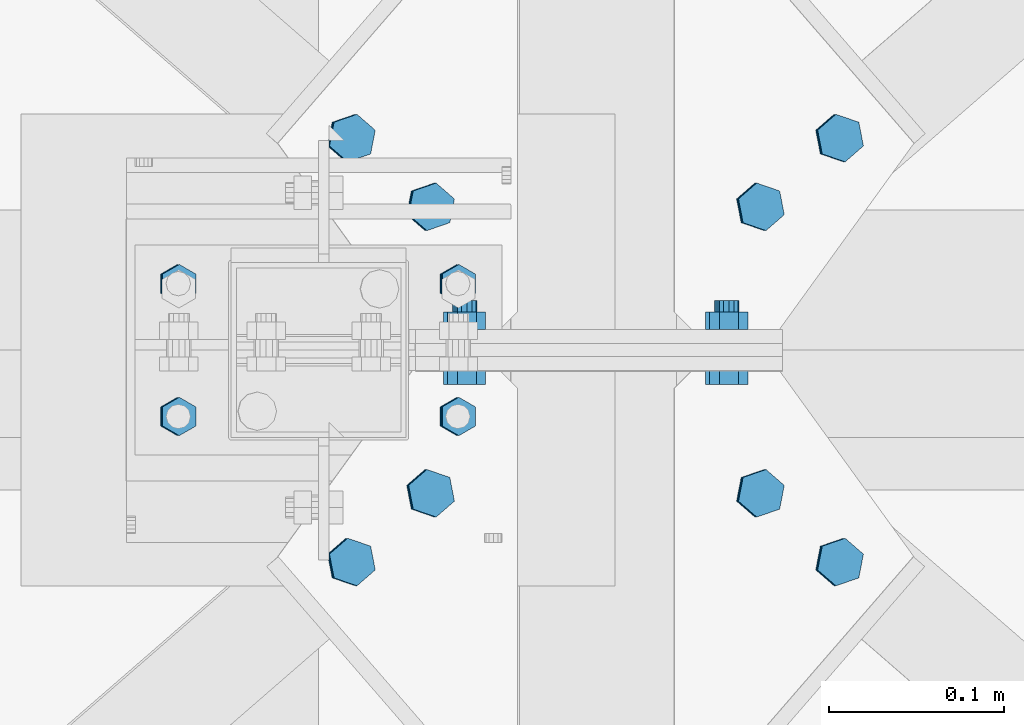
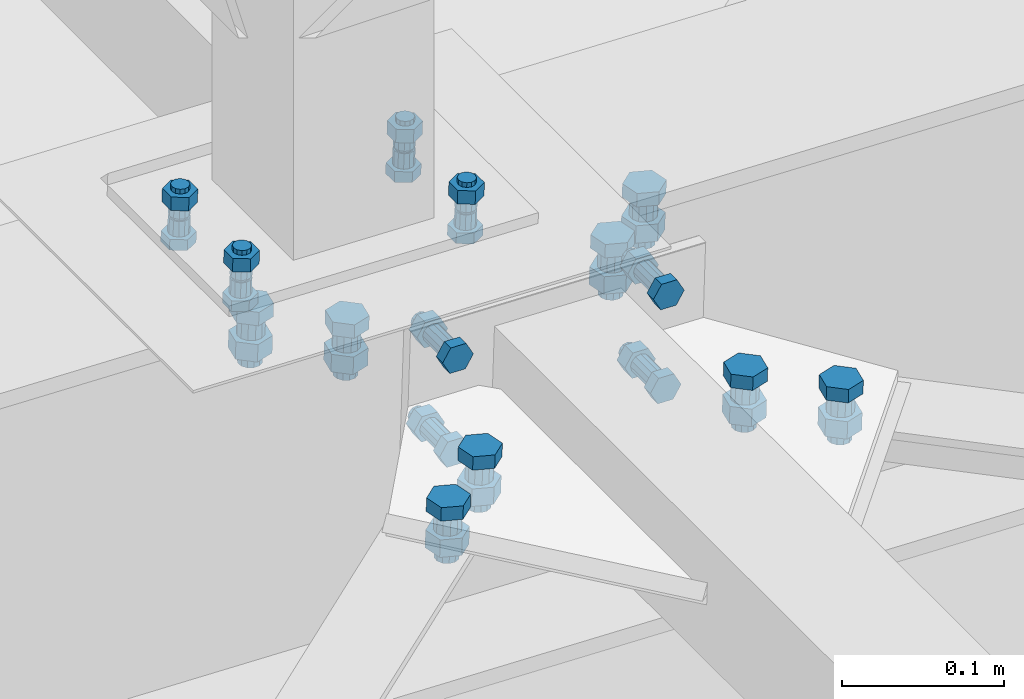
# One storey, part 236 of 3134: 6 mechanical fasteners, 3 elements without a shape of their own.
"""IFC2X3 building model written with IfcOpenShell, lengths in millimetres."""

from ifc_helpers import new_model, si_unit, frame, origin_with_axes, place, context, subcontext, project, spatial, faceted_brep, source, transform, mapped, material, type_object, element, aggregate, save


model = new_model("IFC2X3")

# Units and contexts
model_context = context("Model", 3, precision=1e-05, world=origin_with_axes())
body_context = subcontext(model_context, "Body", "Model", "MODEL_VIEW")
ifc_project = project(units=[si_unit("LENGTHUNIT", "METRE", prefix="MILLI"), si_unit("AREAUNIT", "SQUARE_METRE"), si_unit("VOLUMEUNIT", "CUBIC_METRE"), si_unit("MASSUNIT", "GRAM", prefix="KILO"), si_unit("TIMEUNIT", "SECOND"), si_unit("PLANEANGLEUNIT", "RADIAN"), si_unit("SOLIDANGLEUNIT", "STERADIAN"), si_unit("THERMODYNAMICTEMPERATUREUNIT", "DEGREE_CELSIUS"), si_unit("LUMINOUSINTENSITYUNIT", "LUMEN")], contexts=[model_context])

# Site, building, storey
site_placement = place(None, origin_with_axes())
site = spatial("IfcSite", under=ifc_project, at=site_placement, CompositionType="ELEMENT")
building_placement = place(site_placement, origin_with_axes())
building = spatial("IfcBuilding", under=site, at=building_placement, Name="Undefined", CompositionType="ELEMENT")
storey_placement = place(building_placement, origin_with_axes())
storey = spatial("IfcBuildingStorey", under=building, at=storey_placement, Name="Undefined", CompositionType="ELEMENT", Elevation=0.0)

# Assembly, mechanical fasteners
assembly_1_placement = place(storey_placement, origin_with_axes())
assembly_1 = element("IfcElementAssembly", 1, at=assembly_1_placement, inside=storey, AssemblyPlace="NOTDEFINED", PredefinedType="RIGID_FRAME")
ifc_material = material(Name="8.8")
mechanical_fastener_type = type_object("IfcMechanicalFastenerType", Name="Bolt assembly")
shared_shape_1 = source(origin_with_axes(), body_context, "Body", "Brep", [
    faceted_brep([(13.856406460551, -14.0, 0.0), (6.92820323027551, -14.0, 12.0), (-6.92820323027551, -14.0, 12.0), (-13.856406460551, -14.0, 1.69692038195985e-15), (-6.92820323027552, -14.0, -12.0), (6.9282032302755, -14.0, -12.0), (6.9282032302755, -4.00000145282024, -12.0), (-6.92820323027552, -4.00000145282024, -12.0), (-13.856406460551, -4.00000145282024, 1.69692038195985e-15), (-6.92820323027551, -4.00000145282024, 12.0), (6.92820323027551, -4.00000145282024, 12.0), (13.856406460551, -4.00000145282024, 0.0), (8.0, -4.00000145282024, 0.0), (6.92820323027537, -4.00000145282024, 4.00000000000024), (3.99999999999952, -4.00000145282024, 6.92820323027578), (-8.29068785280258e-13, -4.00000145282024, 8.0), (-4.00000000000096, -4.00000145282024, 6.92820323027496), (-6.9282032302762, -4.00000145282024, 3.99999999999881), (-8.0, -4.00000145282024, -1.65813757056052e-12), (-6.92820323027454, -4.00000145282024, -4.00000000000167), (-3.99999999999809, -4.00000145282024, -6.92820323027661), (2.47832457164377e-12, -4.00000145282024, -8.0), (4.00000000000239, -4.00000145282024, -6.92820323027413), (6.92820323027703, -4.00000145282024, -3.99999999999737), (6.92820323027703, 31.0, -3.99999999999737), (4.00000000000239, 31.0, -6.92820323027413), (2.47832457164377e-12, 31.0, -8.0), (-3.99999999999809, 31.0, -6.92820323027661), (-6.92820323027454, 31.0, -4.00000000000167), (-8.0, 31.0, -1.65813757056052e-12), (-6.9282032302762, 31.0, 3.99999999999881), (-4.00000000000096, 31.0, 6.92820323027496), (-8.29068785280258e-13, 31.0, 8.0), (3.99999999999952, 31.0, 6.92820323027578), (6.92820323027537, 31.0, 4.00000000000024), (8.0, 31.0, 0.0), (13.856406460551, 9.99962794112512, 0.0), (6.92820323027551, 9.99962794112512, 12.0), (-6.92820323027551, 9.99962794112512, 12.0), (-13.856406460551, 9.99962794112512, 1.69692038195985e-15), (-6.92820323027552, 9.99962794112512, -12.0), (6.9282032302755, 9.99962794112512, -12.0), (6.9282032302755, 22.9996279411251, -12.0), (-6.92820323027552, 22.9996279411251, -12.0), (-13.856406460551, 22.9996279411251, 1.69692038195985e-15), (-6.92820323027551, 22.9996279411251, 12.0), (6.92820323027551, 22.9996279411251, 12.0), (13.856406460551, 22.9996279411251, 0.0)], [[[0, 1, 2, 3, 4, 5]], [[6, 7, 8, 9, 10, 11]], [[0, 11, 10, 1]], [[1, 10, 9, 2]], [[2, 9, 8, 3]], [[3, 8, 7, 4]], [[4, 7, 6, 5]], [[5, 6, 11, 0]], [[12, 13, 14, 15, 16, 17, 18, 19, 20, 21, 22, 23]], [[24, 25, 26, 27, 28, 29, 30, 31, 32, 33, 34, 35]], [[12, 35, 34, 13]], [[13, 34, 33, 14]], [[14, 33, 32, 15]], [[15, 32, 31, 16]], [[16, 31, 30, 17]], [[17, 30, 29, 18]], [[18, 29, 28, 19]], [[19, 28, 27, 20]], [[20, 27, 26, 21]], [[21, 26, 25, 22]], [[22, 25, 24, 23]], [[23, 24, 35, 12]], [[36, 37, 38, 39, 40, 41]], [[42, 43, 44, 45, 46, 47]], [[36, 47, 46, 37]], [[37, 46, 45, 38]], [[38, 45, 44, 39]], [[39, 44, 43, 40]], [[40, 43, 42, 41]], [[41, 42, 47, 36]]]),
    faceted_brep([(9.0, 3.89962794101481, 0.0), (7.79422863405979, 3.89962794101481, 4.50000000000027), (4.49999999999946, 3.89962794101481, 7.79422863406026), (-9.3270238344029e-13, 3.89962794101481, 9.0), (-4.50000000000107, 3.89962794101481, 7.79422863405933), (-7.79422863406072, 3.89962794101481, 4.49999999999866), (-9.0, 3.89962794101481, -1.86540476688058e-12), (-7.79422863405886, 3.89962794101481, -4.50000000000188), (-4.49999999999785, 3.89962794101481, -7.79422863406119), (2.78811514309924e-12, 3.89962794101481, -9.0), (4.50000000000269, 3.89962794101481, -7.7942286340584), (7.79422863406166, 3.89962794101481, -4.49999999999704), (7.79422863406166, 9.99962794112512, -4.49999999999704), (4.50000000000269, 9.99962794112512, -7.7942286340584), (2.78811514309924e-12, 9.99962794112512, -9.0), (-4.49999999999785, 9.99962794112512, -7.79422863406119), (-7.79422863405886, 9.99962794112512, -4.50000000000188), (-9.0, 9.99962794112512, -1.86540476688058e-12), (-7.79422863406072, 9.99962794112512, 4.49999999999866), (-4.50000000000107, 9.99962794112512, 7.79422863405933), (-9.3270238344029e-13, 9.99962794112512, 9.0), (4.49999999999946, 9.99962794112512, 7.79422863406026), (7.79422863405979, 9.99962794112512, 4.50000000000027), (9.0, 9.99962794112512, 0.0), (9.0, -3.9, 0.0), (7.79422863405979, -3.9, 4.50000000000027), (4.49999999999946, -3.9, 7.79422863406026), (-9.3270238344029e-13, -3.9, 9.0), (-4.50000000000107, -3.9, 7.79422863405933), (-7.79422863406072, -3.9, 4.49999999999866), (-9.0, -3.9, -1.86540476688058e-12), (-7.79422863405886, -3.9, -4.50000000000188), (-4.49999999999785, -3.9, -7.79422863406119), (2.78811514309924e-12, -3.9, -9.0), (4.50000000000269, -3.9, -7.7942286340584), (7.79422863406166, -3.9, -4.49999999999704), (7.79422863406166, 4.09999854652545, -4.49999999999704), (4.50000000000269, 4.09999854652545, -7.7942286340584), (2.78811514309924e-12, 4.09999854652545, -9.0), (-4.49999999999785, 4.09999854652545, -7.79422863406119), (-7.79422863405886, 4.09999854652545, -4.50000000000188), (-9.0, 4.09999854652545, -1.86540476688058e-12), (-7.79422863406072, 4.09999854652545, 4.49999999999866), (-4.50000000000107, 4.09999854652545, 7.79422863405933), (-9.3270238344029e-13, 4.09999854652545, 9.0), (4.49999999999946, 4.09999854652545, 7.79422863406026), (7.79422863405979, 4.09999854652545, 4.50000000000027), (9.0, 4.09999854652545, 0.0)], [[[0, 1, 2, 3, 4, 5, 6, 7, 8, 9, 10, 11]], [[12, 13, 14, 15, 16, 17, 18, 19, 20, 21, 22, 23]], [[0, 23, 22, 1]], [[1, 22, 21, 2]], [[2, 21, 20, 3]], [[3, 20, 19, 4]], [[4, 19, 18, 5]], [[5, 18, 17, 6]], [[6, 17, 16, 7]], [[7, 16, 15, 8]], [[8, 15, 14, 9]], [[9, 14, 13, 10]], [[10, 13, 12, 11]], [[11, 12, 23, 0]], [[24, 25, 26, 27, 28, 29, 30, 31, 32, 33, 34, 35]], [[36, 37, 38, 39, 40, 41, 42, 43, 44, 45, 46, 47]], [[24, 47, 46, 25]], [[25, 46, 45, 26]], [[26, 45, 44, 27]], [[27, 44, 43, 28]], [[28, 43, 42, 29]], [[29, 42, 41, 30]], [[30, 41, 40, 31]], [[31, 40, 39, 32]], [[32, 39, 38, 33]], [[33, 38, 37, 34]], [[34, 37, 36, 35]], [[35, 36, 47, 24]]]),
])
mechanical_fastener_1_placement = place(assembly_1_placement, frame((26083.1409918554, 55373.0600296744, 10230.4557677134), z_axis=(0.655203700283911, -0.755179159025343, -0.0203113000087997), x_axis=(-0.754816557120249, -0.65551844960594, 0.0233993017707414)))
mechanical_fastener_1 = element("IfcMechanicalFastener", 2, at=mechanical_fastener_1_placement, type_object=mechanical_fastener_type, material=ifc_material, Name="Bolt assembly", NominalDiameter=16.0, NominalLength=35.0, context=body_context, shape_type="MappedRepresentation", body=[
    mapped(shared_shape_1, transform((0.0, 0.0, 0.0))),
    mapped(shared_shape_1, transform((59.9999999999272, 0.0, 5.40239852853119e-10))),
])
shared_shape_2 = source(origin_with_axes(), body_context, "Body", "Brep", [
    faceted_brep([(13.856406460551, -14.0, 0.0), (6.92820323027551, -14.0, 12.0), (-6.92820323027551, -14.0, 12.0), (-13.856406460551, -14.0, 1.69692038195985e-15), (-6.92820323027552, -14.0, -12.0), (6.9282032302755, -14.0, -12.0), (6.9282032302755, -4.00000145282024, -12.0), (-6.92820323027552, -4.00000145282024, -12.0), (-13.856406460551, -4.00000145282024, 1.69692038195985e-15), (-6.92820323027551, -4.00000145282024, 12.0), (6.92820323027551, -4.00000145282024, 12.0), (13.856406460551, -4.00000145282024, 0.0), (8.0, -4.00000145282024, 0.0), (6.92820323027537, -4.00000145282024, 4.00000000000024), (3.99999999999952, -4.00000145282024, 6.92820323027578), (-8.29068785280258e-13, -4.00000145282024, 8.0), (-4.00000000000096, -4.00000145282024, 6.92820323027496), (-6.9282032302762, -4.00000145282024, 3.99999999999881), (-8.0, -4.00000145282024, -1.65813757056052e-12), (-6.92820323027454, -4.00000145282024, -4.00000000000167), (-3.99999999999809, -4.00000145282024, -6.92820323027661), (2.47832457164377e-12, -4.00000145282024, -8.0), (4.00000000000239, -4.00000145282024, -6.92820323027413), (6.92820323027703, -4.00000145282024, -3.99999999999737), (6.92820323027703, 31.0, -3.99999999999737), (4.00000000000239, 31.0, -6.92820323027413), (2.47832457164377e-12, 31.0, -8.0), (-3.99999999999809, 31.0, -6.92820323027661), (-6.92820323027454, 31.0, -4.00000000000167), (-8.0, 31.0, -1.65813757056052e-12), (-6.9282032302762, 31.0, 3.99999999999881), (-4.00000000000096, 31.0, 6.92820323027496), (-8.29068785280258e-13, 31.0, 8.0), (3.99999999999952, 31.0, 6.92820323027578), (6.92820323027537, 31.0, 4.00000000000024), (8.0, 31.0, 0.0), (13.856406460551, 9.99999995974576, 0.0), (6.92820323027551, 9.99999995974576, 12.0), (-6.92820323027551, 9.99999995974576, 12.0), (-13.856406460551, 9.99999995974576, 1.69692038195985e-15), (-6.92820323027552, 9.99999995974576, -12.0), (6.9282032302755, 9.99999995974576, -12.0), (6.9282032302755, 22.9999913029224, -12.0), (-6.92820323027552, 22.9999913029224, -12.0), (-13.856406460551, 22.9999913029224, 1.69692038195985e-15), (-6.92820323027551, 22.9999913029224, 12.0), (6.92820323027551, 22.9999913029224, 12.0), (13.856406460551, 22.9999913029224, 0.0)], [[[0, 1, 2, 3, 4, 5]], [[6, 7, 8, 9, 10, 11]], [[0, 11, 10, 1]], [[1, 10, 9, 2]], [[2, 9, 8, 3]], [[3, 8, 7, 4]], [[4, 7, 6, 5]], [[5, 6, 11, 0]], [[12, 13, 14, 15, 16, 17, 18, 19, 20, 21, 22, 23]], [[24, 25, 26, 27, 28, 29, 30, 31, 32, 33, 34, 35]], [[12, 35, 34, 13]], [[13, 34, 33, 14]], [[14, 33, 32, 15]], [[15, 32, 31, 16]], [[16, 31, 30, 17]], [[17, 30, 29, 18]], [[18, 29, 28, 19]], [[19, 28, 27, 20]], [[20, 27, 26, 21]], [[21, 26, 25, 22]], [[22, 25, 24, 23]], [[23, 24, 35, 12]], [[36, 37, 38, 39, 40, 41]], [[42, 43, 44, 45, 46, 47]], [[36, 47, 46, 37]], [[37, 46, 45, 38]], [[38, 45, 44, 39]], [[39, 44, 43, 40]], [[40, 43, 42, 41]], [[41, 42, 47, 36]]]),
    faceted_brep([(9.0, 3.9, 0.0), (7.79422863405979, 3.9, 4.50000000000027), (4.49999999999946, 3.9, 7.79422863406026), (-9.3270238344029e-13, 3.9, 9.0), (-4.50000000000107, 3.9, 7.79422863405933), (-7.79422863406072, 3.9, 4.49999999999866), (-9.0, 3.9, -1.86540476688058e-12), (-7.79422863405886, 3.9, -4.50000000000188), (-4.49999999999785, 3.9, -7.79422863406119), (2.78811514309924e-12, 3.9, -9.0), (4.50000000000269, 3.9, -7.7942286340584), (7.79422863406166, 3.9, -4.49999999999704), (7.79422863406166, 9.99999995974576, -4.49999999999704), (4.50000000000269, 9.99999995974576, -7.7942286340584), (2.78811514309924e-12, 9.99999995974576, -9.0), (-4.49999999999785, 9.99999995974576, -7.79422863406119), (-7.79422863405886, 9.99999995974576, -4.50000000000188), (-9.0, 9.99999995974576, -1.86540476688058e-12), (-7.79422863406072, 9.99999995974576, 4.49999999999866), (-4.50000000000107, 9.99999995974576, 7.79422863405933), (-9.3270238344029e-13, 9.99999995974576, 9.0), (4.49999999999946, 9.99999995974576, 7.79422863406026), (7.79422863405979, 9.99999995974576, 4.50000000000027), (9.0, 9.99999995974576, 0.0), (9.0, -3.9, 0.0), (7.79422863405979, -3.9, 4.50000000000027), (4.49999999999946, -3.9, 7.79422863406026), (-9.3270238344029e-13, -3.9, 9.0), (-4.50000000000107, -3.9, 7.79422863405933), (-7.79422863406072, -3.9, 4.49999999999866), (-9.0, -3.9, -1.86540476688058e-12), (-7.79422863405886, -3.9, -4.50000000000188), (-4.49999999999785, -3.9, -7.79422863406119), (2.78811514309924e-12, -3.9, -9.0), (4.50000000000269, -3.9, -7.7942286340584), (7.79422863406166, -3.9, -4.49999999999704), (7.79422863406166, 4.09999854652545, -4.49999999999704), (4.50000000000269, 4.09999854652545, -7.7942286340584), (2.78811514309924e-12, 4.09999854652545, -9.0), (-4.49999999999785, 4.09999854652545, -7.79422863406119), (-7.79422863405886, 4.09999854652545, -4.50000000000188), (-9.0, 4.09999854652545, -1.86540476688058e-12), (-7.79422863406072, 4.09999854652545, 4.49999999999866), (-4.50000000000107, 4.09999854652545, 7.79422863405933), (-9.3270238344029e-13, 4.09999854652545, 9.0), (4.49999999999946, 4.09999854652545, 7.79422863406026), (7.79422863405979, 4.09999854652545, 4.50000000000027), (9.0, 4.09999854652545, 0.0)], [[[0, 1, 2, 3, 4, 5, 6, 7, 8, 9, 10, 11]], [[12, 13, 14, 15, 16, 17, 18, 19, 20, 21, 22, 23]], [[0, 23, 22, 1]], [[1, 22, 21, 2]], [[2, 21, 20, 3]], [[3, 20, 19, 4]], [[4, 19, 18, 5]], [[5, 18, 17, 6]], [[6, 17, 16, 7]], [[7, 16, 15, 8]], [[8, 15, 14, 9]], [[9, 14, 13, 10]], [[10, 13, 12, 11]], [[11, 12, 23, 0]], [[24, 25, 26, 27, 28, 29, 30, 31, 32, 33, 34, 35]], [[36, 37, 38, 39, 40, 41, 42, 43, 44, 45, 46, 47]], [[24, 47, 46, 25]], [[25, 46, 45, 26]], [[26, 45, 44, 27]], [[27, 44, 43, 28]], [[28, 43, 42, 29]], [[29, 42, 41, 30]], [[30, 41, 40, 31]], [[31, 40, 39, 32]], [[32, 39, 38, 33]], [[33, 38, 37, 34]], [[34, 37, 36, 35]], [[35, 36, 47, 24]]]),
])
mechanical_fastener_2_placement = place(assembly_1_placement, frame((26271.8496487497, 55373.0600296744, 10224.6057993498), z_axis=(0.65520370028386, 0.755179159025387, -0.0203113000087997), x_axis=(0.754816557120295, -0.655518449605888, -0.0233993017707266)))
mechanical_fastener_2 = element("IfcMechanicalFastener", 3, at=mechanical_fastener_2_placement, type_object=mechanical_fastener_type, material=ifc_material, Name="Bolt assembly", NominalDiameter=16.0, NominalLength=35.0, context=body_context, shape_type="MappedRepresentation", body=[
    mapped(shared_shape_2, transform((0.0, 0.0, 0.0))),
    mapped(shared_shape_2, transform((59.9999999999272, 0.0, 5.40239852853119e-10))),
])

assembly_2_placement = place(storey_placement, origin_with_axes())
assembly_2 = element("IfcElementAssembly", 4, at=assembly_2_placement, inside=storey, AssemblyPlace="NOTDEFINED", PredefinedType="RIGID_FRAME")
mechanical_fastener_3_placement = place(assembly_2_placement, frame((26271.8496500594, 55536.9399703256, 10224.6057993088), z_axis=(-0.655203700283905, 0.755179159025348, 0.0203113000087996), x_axis=(0.754816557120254, 0.655518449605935, -0.0233993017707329)))
mechanical_fastener_3 = element("IfcMechanicalFastener", 5, at=mechanical_fastener_3_placement, type_object=mechanical_fastener_type, material=ifc_material, Name="Bolt assembly", NominalDiameter=16.0, NominalLength=35.0, context=body_context, shape_type="MappedRepresentation", body=[
    mapped(shared_shape_2, transform((0.0, 0.0, 0.0))),
    mapped(shared_shape_2, transform((59.9999999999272, 0.0, 5.40239852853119e-10))),
])
mechanical_fastener_4_placement = place(assembly_2_placement, frame((26083.1409931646, 55536.9399703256, 10230.4557676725), z_axis=(-0.655203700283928, -0.755179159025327, 0.0203113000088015), x_axis=(-0.754816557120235, 0.655518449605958, 0.0233993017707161)))
mechanical_fastener_4 = element("IfcMechanicalFastener", 6, at=mechanical_fastener_4_placement, type_object=mechanical_fastener_type, material=ifc_material, Name="Bolt assembly", NominalDiameter=16.0, NominalLength=35.0, context=body_context, shape_type="MappedRepresentation", body=[
    mapped(shared_shape_2, transform((0.0, 0.0, 0.0))),
    mapped(shared_shape_2, transform((59.9999999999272, 0.0, 5.40239852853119e-10))),
])
aggregate(assembly_2, [mechanical_fastener_3, mechanical_fastener_4])

# Mechanical fastener
shared_shape_3 = source(origin_with_axes(), body_context, "Body", "Brep", [
    faceted_brep([(10.9696551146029, -19.75, 0.0), (5.48482755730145, -19.75, 9.5), (-5.48482755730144, -19.75, 9.5), (-10.9696551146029, -19.75, 1.34339530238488e-15), (-5.48482755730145, -19.75, -9.5), (5.48482755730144, -19.75, -9.50000000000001), (5.48482755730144, -11.75, -9.50000000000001), (-5.48482755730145, -11.75, -9.5), (-10.9696551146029, -11.75, 1.34339530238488e-15), (-5.48482755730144, -11.75, 9.5), (5.48482755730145, -11.75, 9.5), (10.9696551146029, -11.75, 0.0), (6.0, -11.75, 0.0), (5.19615242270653, -11.75, 3.00000000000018), (2.99999999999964, -11.75, 5.19615242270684), (-6.21801588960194e-13, -11.75, 6.0), (-3.00000000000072, -11.75, 5.19615242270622), (-5.19615242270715, -11.75, 2.9999999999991), (-6.0, -11.75, -1.24360317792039e-12), (-5.19615242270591, -11.75, -3.00000000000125), (-2.99999999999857, -11.75, -5.19615242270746), (1.85874342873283e-12, -11.75, -6.0), (3.00000000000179, -11.75, -5.1961524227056), (5.19615242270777, -11.75, -2.99999999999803), (5.19615242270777, 28.25, -2.99999999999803), (3.00000000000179, 28.25, -5.1961524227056), (1.85874342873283e-12, 28.25, -6.0), (-2.99999999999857, 28.25, -5.19615242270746), (-5.19615242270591, 28.25, -3.00000000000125), (-6.0, 28.25, -1.24360317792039e-12), (-5.19615242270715, 28.25, 2.9999999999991), (-3.00000000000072, 28.25, 5.19615242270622), (-6.21801588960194e-13, 28.25, 6.0), (2.99999999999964, 28.25, 5.19615242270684), (5.19615242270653, 28.25, 3.00000000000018), (6.0, 28.25, 0.0), (10.9696551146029, 11.75, 0.0), (5.48482755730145, 11.75, 9.5), (-5.48482755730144, 11.75, 9.5), (-10.9696551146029, 11.75, 1.34339530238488e-15), (-5.48482755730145, 11.75, -9.5), (5.48482755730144, 11.75, -9.50000000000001), (5.48482755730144, 21.75, -9.50000000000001), (-5.48482755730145, 21.75, -9.5), (-10.9696551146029, 21.75, 1.34339530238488e-15), (-5.48482755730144, 21.75, 9.5), (5.48482755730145, 21.75, 9.5), (10.9696551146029, 21.75, 0.0)], [[[0, 1, 2, 3, 4, 5]], [[6, 7, 8, 9, 10, 11]], [[0, 11, 10, 1]], [[1, 10, 9, 2]], [[2, 9, 8, 3]], [[3, 8, 7, 4]], [[4, 7, 6, 5]], [[5, 6, 11, 0]], [[12, 13, 14, 15, 16, 17, 18, 19, 20, 21, 22, 23]], [[24, 25, 26, 27, 28, 29, 30, 31, 32, 33, 34, 35]], [[12, 35, 34, 13]], [[13, 34, 33, 14]], [[14, 33, 32, 15]], [[15, 32, 31, 16]], [[16, 31, 30, 17]], [[17, 30, 29, 18]], [[18, 29, 28, 19]], [[19, 28, 27, 20]], [[20, 27, 26, 21]], [[21, 26, 25, 22]], [[22, 25, 24, 23]], [[23, 24, 35, 12]], [[36, 37, 38, 39, 40, 41]], [[42, 43, 44, 45, 46, 47]], [[36, 47, 46, 37]], [[37, 46, 45, 38]], [[38, 45, 44, 39]], [[39, 44, 43, 40]], [[40, 43, 42, 41]], [[41, 42, 47, 36]]]),
    faceted_brep([(7.0, -3.75, 0.0), (6.06217782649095, -3.75, 3.50000000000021), (3.49999999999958, -3.75, 6.06217782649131), (-7.25435187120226e-13, -3.75, 7.0), (-3.50000000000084, -3.75, 6.06217782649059), (-6.06217782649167, -3.75, 3.49999999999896), (-7.0, -3.75, -1.45087037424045e-12), (-6.06217782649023, -3.75, -3.50000000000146), (-3.49999999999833, -3.75, -6.06217782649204), (2.1685340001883e-12, -3.75, -7.0), (3.50000000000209, -3.75, -6.06217782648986), (6.0621778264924, -3.75, -3.4999999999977), (6.0621778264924, 3.75, -3.4999999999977), (3.50000000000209, 3.75, -6.06217782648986), (2.1685340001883e-12, 3.75, -7.0), (-3.49999999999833, 3.75, -6.06217782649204), (-6.06217782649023, 3.75, -3.50000000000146), (-7.0, 3.75, -1.45087037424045e-12), (-6.06217782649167, 3.75, 3.49999999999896), (-3.50000000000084, 3.75, 6.06217782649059), (-7.25435187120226e-13, 3.75, 7.0), (3.49999999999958, 3.75, 6.06217782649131), (6.06217782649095, 3.75, 3.50000000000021), (7.0, 3.75, 0.0), (7.0, -11.65, 0.0), (6.06217782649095, -11.65, 3.50000000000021), (3.49999999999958, -11.65, 6.06217782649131), (-7.25435187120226e-13, -11.65, 7.0), (-3.50000000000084, -11.65, 6.06217782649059), (-6.06217782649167, -11.65, 3.49999999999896), (-7.0, -11.65, -1.45087037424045e-12), (-6.06217782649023, -11.65, -3.50000000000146), (-3.49999999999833, -11.65, -6.06217782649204), (2.1685340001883e-12, -11.65, -7.0), (3.50000000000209, -11.65, -6.06217782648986), (6.0621778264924, -11.65, -3.4999999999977), (6.0621778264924, -3.65, -3.4999999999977), (3.50000000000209, -3.65, -6.06217782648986), (2.1685340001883e-12, -3.65, -7.0), (-3.49999999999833, -3.65, -6.06217782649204), (-6.06217782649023, -3.65, -3.50000000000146), (-7.0, -3.65, -1.45087037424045e-12), (-6.06217782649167, -3.65, 3.49999999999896), (-3.50000000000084, -3.65, 6.06217782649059), (-7.25435187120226e-13, -3.65, 7.0), (3.49999999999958, -3.65, 6.06217782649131), (6.06217782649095, -3.65, 3.50000000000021), (7.0, -3.65, 0.0), (7.0, 3.65000002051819, 0.0), (6.06217782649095, 3.65000002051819, 3.50000000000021), (3.49999999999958, 3.65000002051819, 6.06217782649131), (-7.25435187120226e-13, 3.65000002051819, 7.0), (-3.50000000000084, 3.65000002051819, 6.06217782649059), (-6.06217782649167, 3.65000002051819, 3.49999999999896), (-7.0, 3.65000002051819, -1.45087037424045e-12), (-6.06217782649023, 3.65000002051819, -3.50000000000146), (-3.49999999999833, 3.65000002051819, -6.06217782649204), (2.1685340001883e-12, 3.65000002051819, -7.0), (3.50000000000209, 3.65000002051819, -6.06217782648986), (6.0621778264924, 3.65000002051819, -3.4999999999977), (6.0621778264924, 11.75, -3.4999999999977), (3.50000000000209, 11.75, -6.06217782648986), (2.1685340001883e-12, 11.75, -7.0), (-3.49999999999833, 11.75, -6.06217782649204), (-6.06217782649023, 11.75, -3.50000000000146), (-7.0, 11.75, -1.45087037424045e-12), (-6.06217782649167, 11.75, 3.49999999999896), (-3.50000000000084, 11.75, 6.06217782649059), (-7.25435187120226e-13, 11.75, 7.0), (3.49999999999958, 11.75, 6.06217782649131), (6.06217782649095, 11.75, 3.50000000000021), (7.0, 11.75, 0.0)], [[[0, 1, 2, 3, 4, 5, 6, 7, 8, 9, 10, 11]], [[12, 13, 14, 15, 16, 17, 18, 19, 20, 21, 22, 23]], [[0, 23, 22, 1]], [[1, 22, 21, 2]], [[2, 21, 20, 3]], [[3, 20, 19, 4]], [[4, 19, 18, 5]], [[5, 18, 17, 6]], [[6, 17, 16, 7]], [[7, 16, 15, 8]], [[8, 15, 14, 9]], [[9, 14, 13, 10]], [[10, 13, 12, 11]], [[11, 12, 23, 0]], [[24, 25, 26, 27, 28, 29, 30, 31, 32, 33, 34, 35]], [[36, 37, 38, 39, 40, 41, 42, 43, 44, 45, 46, 47]], [[24, 47, 46, 25]], [[25, 46, 45, 26]], [[26, 45, 44, 27]], [[27, 44, 43, 28]], [[28, 43, 42, 29]], [[29, 42, 41, 30]], [[30, 41, 40, 31]], [[31, 40, 39, 32]], [[32, 39, 38, 33]], [[33, 38, 37, 34]], [[34, 37, 36, 35]], [[35, 36, 47, 24]], [[48, 49, 50, 51, 52, 53, 54, 55, 56, 57, 58, 59]], [[60, 61, 62, 63, 64, 65, 66, 67, 68, 69, 70, 71]], [[48, 71, 70, 49]], [[49, 70, 69, 50]], [[50, 69, 68, 51]], [[51, 68, 67, 52]], [[52, 67, 66, 53]], [[53, 66, 65, 54]], [[54, 65, 64, 55]], [[55, 64, 63, 56]], [[56, 63, 62, 57]], [[57, 62, 61, 58]], [[58, 61, 60, 59]], [[59, 60, 71, 48]]]),
])
mechanical_fastener_5_placement = place(assembly_1_placement, frame((26102.5292494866, 55455.0, 10229.8547317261), z_axis=(0.0309851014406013, 0.0, 0.999519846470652), x_axis=(0.999519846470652, 0.0, -0.0309851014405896)))
mechanical_fastener_5 = element("IfcMechanicalFastener", 7, at=mechanical_fastener_5_placement, type_object=mechanical_fastener_type, material=ifc_material, Name="Bolt assembly", NominalDiameter=12.0, NominalLength=40.0, context=body_context, shape_type="MappedRepresentation", body=[
    mapped(shared_shape_3, transform((0.0, 0.0, -35.0))),
    mapped(shared_shape_3, transform((150.000000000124, 0.0, -35.0000000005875))),
    mapped(shared_shape_3, transform((0.0, 0.0, 35.0))),
    mapped(shared_shape_3, transform((150.000000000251, 0.0, 34.9999999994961))),
])

aggregate(assembly_1, [mechanical_fastener_2, mechanical_fastener_1, mechanical_fastener_5])

# Assembly, mechanical fastener
assembly_3_placement = place(storey_placement, origin_with_axes())
assembly_3 = element("IfcElementAssembly", 8, at=assembly_3_placement, inside=storey, Name="IPE330", AssemblyPlace="NOTDEFINED", PredefinedType="RIGID_FRAME")
shared_shape_4 = source(origin_with_axes(), body_context, "Body", "Brep", [
    faceted_brep([(10.9696551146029, -6.49779207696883, 0.0), (5.48482755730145, -6.49779207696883, 9.5), (-5.48482755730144, -6.49779207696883, 9.5), (-10.9696551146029, -6.49779207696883, 1.34339530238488e-15), (-5.48482755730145, -6.49779207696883, -9.5), (5.48482755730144, -6.49779207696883, -9.50000000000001), (5.48482755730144, 1.50220792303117, -9.50000000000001), (-5.48482755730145, 1.50220792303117, -9.5), (-10.9696551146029, 1.50220792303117, 1.34339530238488e-15), (-5.48482755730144, 1.50220792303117, 9.5), (5.48482755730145, 1.50220792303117, 9.5), (10.9696551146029, 1.50220792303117, 0.0), (6.0, 1.50220792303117, 0.0), (5.19615242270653, 1.50220792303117, 3.00000000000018), (2.99999999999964, 1.50220792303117, 5.19615242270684), (-6.21801588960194e-13, 1.50220792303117, 6.0), (-3.00000000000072, 1.50220792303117, 5.19615242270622), (-5.19615242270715, 1.50220792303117, 2.9999999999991), (-6.0, 1.50220792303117, -1.24360317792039e-12), (-5.19615242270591, 1.50220792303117, -3.00000000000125), (-2.99999999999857, 1.50220792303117, -5.19615242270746), (1.85874342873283e-12, 1.50220792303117, -6.0), (3.00000000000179, 1.50220792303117, -5.1961524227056), (5.19615242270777, 1.50220792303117, -2.99999999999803), (5.19615242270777, 36.5022079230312, -2.99999999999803), (3.00000000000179, 36.5022079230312, -5.1961524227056), (1.85874342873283e-12, 36.5022079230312, -6.0), (-2.99999999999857, 36.5022079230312, -5.19615242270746), (-5.19615242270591, 36.5022079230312, -3.00000000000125), (-6.0, 36.5022079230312, -1.24360317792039e-12), (-5.19615242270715, 36.5022079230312, 2.9999999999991), (-3.00000000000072, 36.5022079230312, 5.19615242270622), (-6.21801588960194e-13, 36.5022079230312, 6.0), (2.99999999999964, 36.5022079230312, 5.19615242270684), (5.19615242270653, 36.5022079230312, 3.00000000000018), (6.0, 36.5022079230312, 0.0), (10.9696551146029, 23.0039050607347, 0.0), (5.48482755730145, 23.0039050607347, 9.5), (-5.48482755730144, 23.0039050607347, 9.5), (-10.9696551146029, 23.0039050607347, 1.34339530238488e-15), (-5.48482755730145, 23.0039050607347, -9.5), (5.48482755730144, 23.0039050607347, -9.50000000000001), (5.48482755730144, 33.0039050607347, -9.50000000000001), (-5.48482755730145, 33.0039050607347, -9.5), (-10.9696551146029, 33.0039050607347, 1.34339530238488e-15), (-5.48482755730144, 33.0039050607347, 9.5), (5.48482755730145, 33.0039050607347, 9.5), (10.9696551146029, 33.0039050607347, 0.0)], [[[0, 1, 2, 3, 4, 5]], [[6, 7, 8, 9, 10, 11]], [[0, 11, 10, 1]], [[1, 10, 9, 2]], [[2, 9, 8, 3]], [[3, 8, 7, 4]], [[4, 7, 6, 5]], [[5, 6, 11, 0]], [[12, 13, 14, 15, 16, 17, 18, 19, 20, 21, 22, 23]], [[24, 25, 26, 27, 28, 29, 30, 31, 32, 33, 34, 35]], [[12, 35, 34, 13]], [[13, 34, 33, 14]], [[14, 33, 32, 15]], [[15, 32, 31, 16]], [[16, 31, 30, 17]], [[17, 30, 29, 18]], [[18, 29, 28, 19]], [[19, 28, 27, 20]], [[20, 27, 26, 21]], [[21, 26, 25, 22]], [[22, 25, 24, 23]], [[23, 24, 35, 12]], [[36, 37, 38, 39, 40, 41]], [[42, 43, 44, 45, 46, 47]], [[36, 47, 46, 37]], [[37, 46, 45, 38]], [[38, 45, 44, 39]], [[39, 44, 43, 40]], [[40, 43, 42, 41]], [[41, 42, 47, 36]]]),
    faceted_brep([(7.0, 14.9039050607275, 0.0), (6.06217782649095, 14.9039050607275, 3.50000000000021), (3.49999999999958, 14.9039050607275, 6.06217782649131), (-7.25435187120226e-13, 14.9039050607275, 7.0), (-3.50000000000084, 14.9039050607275, 6.06217782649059), (-6.06217782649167, 14.9039050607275, 3.49999999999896), (-7.0, 14.9039050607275, -1.45087037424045e-12), (-6.06217782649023, 14.9039050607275, -3.50000000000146), (-3.49999999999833, 14.9039050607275, -6.06217782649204), (2.1685340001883e-12, 14.9039050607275, -7.0), (3.50000000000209, 14.9039050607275, -6.06217782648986), (6.0621778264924, 14.9039050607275, -3.4999999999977), (6.0621778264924, 23.0039050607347, -3.4999999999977), (3.50000000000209, 23.0039050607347, -6.06217782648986), (2.1685340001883e-12, 23.0039050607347, -7.0), (-3.49999999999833, 23.0039050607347, -6.06217782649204), (-6.06217782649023, 23.0039050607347, -3.50000000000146), (-7.0, 23.0039050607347, -1.45087037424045e-12), (-6.06217782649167, 23.0039050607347, 3.49999999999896), (-3.50000000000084, 23.0039050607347, 6.06217782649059), (-7.25435187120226e-13, 23.0039050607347, 7.0), (3.49999999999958, 23.0039050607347, 6.06217782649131), (6.06217782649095, 23.0039050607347, 3.50000000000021), (7.0, 23.0039050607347, 0.0), (7.0, 1.60220792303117, 0.0), (6.06217782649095, 1.60220792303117, 3.50000000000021), (3.49999999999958, 1.60220792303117, 6.06217782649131), (-7.25435187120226e-13, 1.60220792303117, 7.0), (-3.50000000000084, 1.60220792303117, 6.06217782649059), (-6.06217782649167, 1.60220792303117, 3.49999999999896), (-7.0, 1.60220792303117, -1.45087037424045e-12), (-6.06217782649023, 1.60220792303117, -3.50000000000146), (-3.49999999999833, 1.60220792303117, -6.06217782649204), (2.1685340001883e-12, 1.60220792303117, -7.0), (3.50000000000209, 1.60220792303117, -6.06217782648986), (6.0621778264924, 1.60220792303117, -3.4999999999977), (6.0621778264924, 13.1022079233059, -3.4999999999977), (3.50000000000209, 13.1022079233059, -6.06217782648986), (2.1685340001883e-12, 13.1022079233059, -7.0), (-3.49999999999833, 13.1022079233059, -6.06217782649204), (-6.06217782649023, 13.1022079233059, -3.50000000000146), (-7.0, 13.1022079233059, -1.45087037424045e-12), (-6.06217782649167, 13.1022079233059, 3.49999999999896), (-3.50000000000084, 13.1022079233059, 6.06217782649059), (-7.25435187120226e-13, 13.1022079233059, 7.0), (3.49999999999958, 13.1022079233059, 6.06217782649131), (6.06217782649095, 13.1022079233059, 3.50000000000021), (7.0, 13.1022079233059, 0.0)], [[[0, 1, 2, 3, 4, 5, 6, 7, 8, 9, 10, 11]], [[12, 13, 14, 15, 16, 17, 18, 19, 20, 21, 22, 23]], [[0, 23, 22, 1]], [[1, 22, 21, 2]], [[2, 21, 20, 3]], [[3, 20, 19, 4]], [[4, 19, 18, 5]], [[5, 18, 17, 6]], [[6, 17, 16, 7]], [[7, 16, 15, 8]], [[8, 15, 14, 9]], [[9, 14, 13, 10]], [[10, 13, 12, 11]], [[11, 12, 23, 0]], [[24, 25, 26, 27, 28, 29, 30, 31, 32, 33, 34, 35]], [[36, 37, 38, 39, 40, 41, 42, 43, 44, 45, 46, 47]], [[24, 47, 46, 25]], [[25, 46, 45, 26]], [[26, 45, 44, 27]], [[27, 44, 43, 28]], [[28, 43, 42, 29]], [[29, 42, 41, 30]], [[30, 41, 40, 31]], [[31, 40, 39, 32]], [[32, 39, 38, 33]], [[33, 38, 37, 34]], [[34, 37, 36, 35]], [[35, 36, 47, 24]]]),
])
mechanical_fastener_6_placement = place(assembly_3_placement, frame((26018.2251187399, 55493.0, 10379.5372055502), z_axis=(-0.99951962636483, 0.0, 0.0309922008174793), x_axis=(0.0, -1.0, 0.0)))
mechanical_fastener_6 = element("IfcMechanicalFastener", 9, at=mechanical_fastener_6_placement, type_object=mechanical_fastener_type, material=ifc_material, Name="Bolt assembly", NominalDiameter=12.0, NominalLength=35.0, context=body_context, shape_type="MappedRepresentation", body=[
    mapped(shared_shape_4, transform((0.0, -5.32963895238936e-10, -79.9999999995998))),
    mapped(shared_shape_4, transform((76.0, -5.32963895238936e-10, -79.9999999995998))),
    mapped(shared_shape_4, transform((0.0, 5.3114490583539e-10, 79.9999999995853))),
    mapped(shared_shape_4, transform((76.0, 5.3114490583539e-10, 79.9999999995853))),
])
aggregate(assembly_3, [mechanical_fastener_6])

save(model, "model.ifc")
